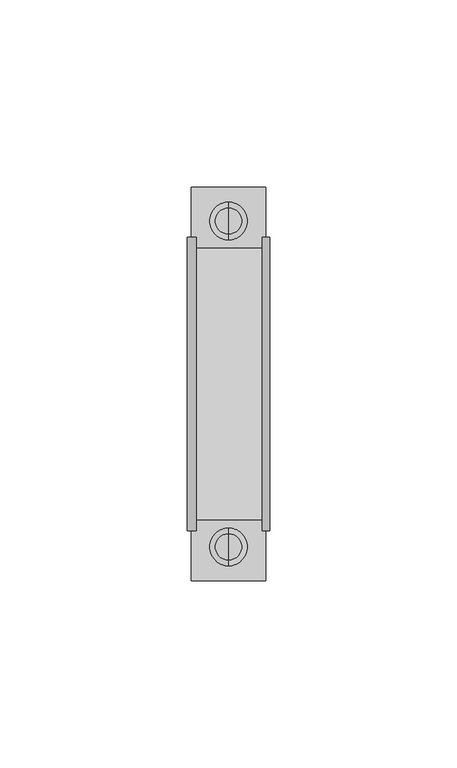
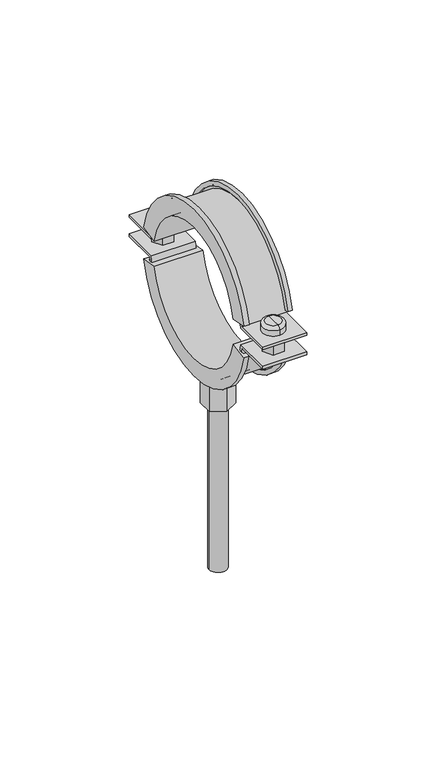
"""IFC4 building model written with IfcOpenShell, lengths in millimetres: pipe fitting geometry, NIRON abrazadera isofonica lisa : Estándard."""

from ifc_helpers import new_model, si_unit, point, frame, origin, origin_2d, place, context, project, spatial, polyline, circle_curve, ellipse_curve, trimmed, segment, composite_curve, outline, extrude, source, transform, mapped, element, save
from ifc_brep_helpers import plane_surface, cylinder_surface, revolved_surface, advanced_brep


def pipe_fitting_b763c119(model_context):
    return source(origin(), model_context, "Body", "SolidModel", [
        advanced_brep(
        [(0.0, 39.5, -7.8), (0.0, 39.5, -4.8), (0.0, 47.5, -4.8), (0.0, 47.5, -7.8), (0.0, 43.5, -7.8), (0.0, 43.5, -4.8)],
        [
            (0, 1),
            (1, 2, circle_curve(frame((0.0, 43.5, -4.8), z_axis=(0.0, 0.0, -1.0), x_axis=(0.0, 1.0, 0.0)), 4.0)),
            (2, 3),
            (3, 0, circle_curve(frame((0.0, 43.5, -7.8), z_axis=(0.0, 0.0, 1.0), x_axis=(0.0, 1.0, 0.0)), 4.0)),
            (2, 1, circle_curve(frame((0.0, 43.5, -4.8), z_axis=(0.0, 0.0, -1.0), x_axis=(0.0, 1.0, 0.0)), 4.0)),
            (0, 3, circle_curve(frame((0.0, 43.5, -7.8), z_axis=(0.0, 0.0, 1.0), x_axis=(0.0, 1.0, 0.0)), 4.0)),
            (4, 0),
            (3, 4),
            (1, 5),
            (5, 2),
        ],
        [
            cylinder_surface(frame((0.0, 43.5, -110.5332781), z_axis=(0.0, 0.0, -1.0), x_axis=(0.0, 1.0, 0.0)), 4.0),
            plane_surface(frame((0.0, 43.5, -7.8), z_axis=(0.0, 0.0, -1.0), x_axis=(0.0, 1.0, 0.0))),
            plane_surface(frame((0.0, 43.5, -4.8), z_axis=(0.0, 0.0, 1.0), x_axis=(0.0, 1.0, 0.0))),
        ],
        [
            (0, [[1, 2, 3, 4]]),
            (0, [[-3, 5, -1, 6]]),
            (1, [[7, -4, 8]]),
            (1, [[-8, -6, -7]]),
            (2, [[9, 10, -2]]),
            (2, [[-10, -9, -5]]),
        ],
    ),
        advanced_brep(
        [(0.0, 43.5, 4.8), (0.0, 38.5, 4.8), (0.0, 48.5, 4.8), (0.0, 38.5, 7.3), (0.0, 48.5, 7.3), (0.0, 40.0, 8.8), (0.0, 43.5, 8.8), (0.0, 47.0, 8.8)],
        [
            (0, 1),
            (1, 2, circle_curve(frame((0.0, 43.5, 4.8), z_axis=(0.0, 0.0, -1.0), x_axis=(0.0, 1.0, 0.0)), 5.0)),
            (2, 0),
            (2, 1, circle_curve(frame((0.0, 43.5, 4.8), z_axis=(0.0, 0.0, -1.0), x_axis=(0.0, 1.0, 0.0)), 5.0)),
            (1, 3),
            (3, 4, circle_curve(frame((0.0, 43.5, 7.3), z_axis=(0.0, 0.0, -1.0), x_axis=(0.0, 1.0, 0.0)), 5.0)),
            (4, 2),
            (4, 3, circle_curve(frame((0.0, 43.5, 7.3), z_axis=(0.0, 0.0, -1.0), x_axis=(0.0, 1.0, 0.0)), 5.0)),
            (5, 6),
            (6, 7),
            (7, 5, circle_curve(frame((0.0, 43.5, 8.8), z_axis=(0.0, 0.0, 1.0), x_axis=(0.0, 1.0, 0.0)), 3.5)),
            (5, 7, circle_curve(frame((0.0, 43.5, 8.8), z_axis=(0.0, 0.0, 1.0), x_axis=(0.0, 1.0, 0.0)), 3.5)),
            (3, 5, circle_curve(frame((0.0, 40.0, 7.3), z_axis=(-1.0, 0.0, 0.0), x_axis=(0.0, 1.0, 0.0)), 1.5)),
            (7, 4, circle_curve(frame((0.0, 47.0, 7.3), z_axis=(-1.0, 0.0, 0.0), x_axis=(0.0, -1.0, 0.0)), 1.5)),
        ],
        [
            plane_surface(frame((0.0, 43.5, 4.8), z_axis=(0.0, 0.0, -1.0), x_axis=(0.0, 1.0, 0.0))),
            cylinder_surface(frame((0.0, 43.5, 9.8), z_axis=(0.0, 0.0, -1.0), x_axis=(0.0, 1.0, 0.0)), 5.0),
            plane_surface(frame((0.0, 43.5, 8.8), z_axis=(0.0, 0.0, 1.0), x_axis=(0.0, 1.0, 0.0))),
            revolved_surface(trimmed(ellipse_curve(frame((0.0, 47.0, 7.3), z_axis=(-1.0, 0.0, 0.0), x_axis=(0.0, -1.0, 0.0)), 1.5, 1.5), [point((0.0, 47.0, 8.8))], [point((0.0, 48.5, 7.3))], True, "CARTESIAN"), (0.0, 43.5, 9.8), (0.0, 0.0, -1.0)),
        ],
        [
            (0, [[1, 2, 3]]),
            (0, [[-3, 4, -1]]),
            (1, [[5, 6, 7, -2]]),
            (1, [[-7, 8, -5, -4]]),
            (2, [[9, 10, 11]]),
            (2, [[-10, -9, 12]]),
            (3, [[13, -11, 14, -6]]),
            (3, [[-14, -12, -13, -8]]),
        ],
    ),
        advanced_brep(
        [(0.0, -39.5, -7.4875), (0.0, -47.5, -7.4875), (0.0, -47.5, -4.4875), (0.0, -39.5, -4.4875), (0.0, -43.5, -7.4875), (0.0, -43.5, -4.4875)],
        [
            (0, 1, circle_curve(frame((0.0, -43.5, -7.4875), z_axis=(0.0, 0.0, 1.0), x_axis=(0.0, -1.0, 0.0)), 4.0)),
            (1, 2),
            (2, 3, circle_curve(frame((0.0, -43.5, -4.4875), z_axis=(0.0, 0.0, -1.0), x_axis=(0.0, -1.0, 0.0)), 4.0)),
            (3, 0),
            (1, 0, circle_curve(frame((0.0, -43.5, -7.4875), z_axis=(0.0, 0.0, 1.0), x_axis=(0.0, -1.0, 0.0)), 4.0)),
            (3, 2, circle_curve(frame((0.0, -43.5, -4.4875), z_axis=(0.0, 0.0, -1.0), x_axis=(0.0, -1.0, 0.0)), 4.0)),
            (4, 1),
            (0, 4),
            (2, 5),
            (5, 3),
        ],
        [
            cylinder_surface(frame((0.0, -43.5, -110.2207781), z_axis=(0.0, 0.0, -1.0), x_axis=(0.0, -1.0, 0.0)), 4.0),
            plane_surface(frame((0.0, -43.5, -7.4875), z_axis=(0.0, 0.0, -1.0), x_axis=(0.0, -1.0, 0.0))),
            plane_surface(frame((0.0, -43.5, -4.4875), z_axis=(0.0, 0.0, 1.0), x_axis=(0.0, -1.0, 0.0))),
        ],
        [
            (0, [[1, 2, 3, 4]]),
            (0, [[5, -4, 6, -2]]),
            (1, [[7, -1, 8]]),
            (1, [[-8, -5, -7]]),
            (2, [[-3, 9, 10]]),
            (2, [[-6, -10, -9]]),
        ],
    ),
        advanced_brep(
        [(0.0, -43.5, 5.1125), (0.0, -48.5, 5.1125), (0.0, -38.5, 5.1125), (0.0, -48.5, 7.6125), (0.0, -38.5, 7.6125), (0.0, -40.0, 9.1125), (0.0, -47.0, 9.1125), (0.0, -43.5, 9.1125)],
        [
            (0, 1),
            (1, 2, circle_curve(frame((0.0, -43.5, 5.1125), z_axis=(0.0, 0.0, -1.0), x_axis=(0.0, -1.0, 0.0)), 5.0)),
            (2, 0),
            (2, 1, circle_curve(frame((0.0, -43.5, 5.1125), z_axis=(0.0, 0.0, -1.0), x_axis=(0.0, -1.0, 0.0)), 5.0)),
            (1, 3),
            (3, 4, circle_curve(frame((0.0, -43.5, 7.6125), z_axis=(0.0, 0.0, -1.0), x_axis=(0.0, -1.0, 0.0)), 5.0)),
            (4, 2),
            (4, 3, circle_curve(frame((0.0, -43.5, 7.6125), z_axis=(0.0, 0.0, -1.0), x_axis=(0.0, -1.0, 0.0)), 5.0)),
            (5, 6, circle_curve(frame((0.0, -43.5, 9.1125), z_axis=(0.0, 0.0, 1.0), x_axis=(0.0, -1.0, 0.0)), 3.5)),
            (6, 7),
            (7, 5),
            (6, 5, circle_curve(frame((0.0, -43.5, 9.1125), z_axis=(0.0, 0.0, 1.0), x_axis=(0.0, -1.0, 0.0)), 3.5)),
            (3, 6, circle_curve(frame((0.0, -47.0, 7.6125), z_axis=(-1.0, 0.0, 0.0), x_axis=(0.0, 1.0, 0.0)), 1.5)),
            (5, 4, circle_curve(frame((0.0, -40.0, 7.6125), z_axis=(-1.0, 0.0, 0.0), x_axis=(0.0, -1.0, 0.0)), 1.5)),
        ],
        [
            plane_surface(frame((0.0, -43.5, 5.1125), z_axis=(0.0, 0.0, -1.0), x_axis=(0.0, -1.0, 0.0))),
            cylinder_surface(frame((0.0, -43.5, 10.1125), z_axis=(0.0, 0.0, -1.0), x_axis=(0.0, -1.0, 0.0)), 5.0),
            plane_surface(frame((0.0, -43.5, 9.1125), z_axis=(0.0, 0.0, 1.0), x_axis=(0.0, -1.0, 0.0))),
            revolved_surface(trimmed(ellipse_curve(frame((0.0, -47.0, 7.6125), z_axis=(1.0, 0.0, 0.0), x_axis=(0.0, 1.0, 0.0)), 1.5, 1.5), [point((0.0, -47.0, 9.1125))], [point((0.0, -48.5, 7.6125))], True, "CARTESIAN"), (0.0, -43.5, 10.1125), (0.0, 0.0, -1.0)),
        ],
        [
            (0, [[1, 2, 3]]),
            (0, [[-3, 4, -1]]),
            (1, [[-2, 5, 6, 7]]),
            (1, [[-4, -7, 8, -5]]),
            (2, [[9, 10, 11]]),
            (2, [[12, -11, -10]]),
            (3, [[-6, 13, -9, 14]]),
            (3, [[-8, -14, -12, -13]]),
        ],
    ),
        extrude(outline(polyline([(2.5, 39.169873), (-2.5, 39.169873), (-5.0, 43.5), (-2.5, 47.830127), (2.5, 47.830127), (5.0, 43.5), (2.5, 39.169873)])), frame((0.0, 0.0, -4.0), z_axis=(0.0, 0.0, 1.0), x_axis=(1.0, 0.0, 0.0)), (0.0, 0.0, 1.0), 8.0),
        extrude(outline(polyline([(2.5, -39.169873), (5.0, -43.5), (2.5, -47.830127), (-2.5, -47.830127), (-5.0, -43.5), (-2.5, -39.169873), (2.5, -39.169873)])), frame((0.0, 0.0, -4.0), z_axis=(0.0, 0.0, 1.0), x_axis=(1.0, 0.0, 0.0)), (0.0, 0.0, 1.0), 8.0),
        advanced_brep(
        [(11.0, -30.932368, 6.0), (11.0, -39.2300984, 7.596925), (9.0, -39.2300984, 7.596925), (9.0, -37.2661385, 7.2189546), (10.0, -37.2661385, 7.2189546), (10.0, -35.3021787, 6.8409841), (-10.0, -35.3021787, 6.8409841), (-10.0, -37.2661385, 7.2189546), (-8.5466338, -37.2661385, 7.2189546), (-8.5466338, -39.2300984, 7.596925), (-11.0, -39.2300984, 7.596925), (-11.0, -30.932368, 6.0), (11.0, 30.932368, 6.0), (-11.0, 30.932368, 6.0), (-11.0, 39.2300984, 7.596925), (-8.5466338, 39.2300984, 7.596925), (-8.5466338, 37.2661385, 7.2189546), (-10.0, 37.2661385, 7.2189546), (-10.0, 35.3021787, 6.8409841), (10.0, 35.3021787, 6.8409841), (10.0, 37.2661385, 7.2189546), (9.0, 37.2661385, 7.2189546), (9.0, 39.2300984, 7.596925), (11.0, 39.2300984, 7.596925)],
        [
            (0, 1),
            (1, 2),
            (2, 3),
            (3, 4),
            (4, 5),
            (5, 6),
            (6, 7),
            (7, 8),
            (8, 9),
            (9, 10),
            (10, 11),
            (11, 0),
            (12, 13),
            (13, 14),
            (14, 15),
            (15, 16),
            (16, 17),
            (17, 18),
            (18, 19),
            (19, 20),
            (20, 21),
            (21, 22),
            (22, 23),
            (23, 12),
            (12, 0, circle_curve(frame((11.0, 0.0, 0.0469661), z_axis=(1.0, 0.0, 0.0), x_axis=(0.0, -0.9819799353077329, 0.188985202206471)), 31.5)),
            (11, 13, circle_curve(frame((-11.0, 0.0, 0.0469661), z_axis=(-1.0, 0.0, 0.0), x_axis=(0.0, -0.9819799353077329, 0.188985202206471)), 31.5)),
            (10, 14, circle_curve(frame((-11.0, 0.0, 0.0469661), z_axis=(-1.0, 0.0, 0.0), x_axis=(0.0, -0.9819799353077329, 0.188985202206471)), 39.95)),
            (9, 15, circle_curve(frame((-8.5466338, 0.0, 0.0469661), z_axis=(-1.0, 0.0, 0.0), x_axis=(0.0, -0.9819799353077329, 0.188985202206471)), 39.95)),
            (8, 16, circle_curve(frame((-8.5466338, 0.0, 0.0469661), z_axis=(-1.0, 0.0, 0.0), x_axis=(0.0, -0.9819799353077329, 0.188985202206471)), 37.95)),
            (7, 17, circle_curve(frame((-10.0, 0.0, 0.0469661), z_axis=(-1.0, 0.0, 0.0), x_axis=(0.0, -0.9819799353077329, 0.188985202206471)), 37.95)),
            (6, 18, circle_curve(frame((-10.0, 0.0, 0.0469661), z_axis=(-1.0, 0.0, 0.0), x_axis=(0.0, -0.9819799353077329, 0.188985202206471)), 35.95)),
            (5, 19, circle_curve(frame((10.0, 0.0, 0.0469661), z_axis=(-1.0, 0.0, 0.0), x_axis=(0.0, -0.9819799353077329, 0.188985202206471)), 35.95)),
            (4, 20, circle_curve(frame((10.0, 0.0, 0.0469661), z_axis=(-1.0, 0.0, 0.0), x_axis=(0.0, -0.9819799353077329, 0.188985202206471)), 37.95)),
            (3, 21, circle_curve(frame((9.0, 0.0, 0.0469661), z_axis=(-1.0, 0.0, 0.0), x_axis=(0.0, -0.9819799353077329, 0.188985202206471)), 37.95)),
            (2, 22, circle_curve(frame((9.0, 0.0, 0.0469661), z_axis=(-1.0, 0.0, 0.0), x_axis=(0.0, -0.9819799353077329, 0.188985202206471)), 39.95)),
            (1, 23, circle_curve(frame((11.0, 0.0, 0.0469661), z_axis=(-1.0, 0.0, 0.0), x_axis=(0.0, -0.9819799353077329, 0.188985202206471)), 39.95)),
        ],
        [
            plane_surface(frame((0.0, -30.932368, 6.0), z_axis=(0.0, -0.188985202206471, -0.9819799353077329), x_axis=(1.0, 0.0, 0.0))),
            plane_surface(frame((0.0, 30.932368, 6.0), z_axis=(0.0, 0.18898520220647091, -0.981979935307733), x_axis=(1.0, 0.0, 0.0))),
            revolved_surface(polyline([(-11.0, -30.932367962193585, 5.999999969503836), (11.0, -30.932367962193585, 5.999999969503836)]), (0.0, 0.0, 0.0469661), (-1.0, 0.0, 0.0)),
            plane_surface(frame((-11.0, 0.0, 0.0469661), z_axis=(-1.0, 0.0, 0.0), x_axis=(0.0, -0.9819799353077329, 0.188985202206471))),
            cylinder_surface(frame((0.0, 0.0, 0.0469661), z_axis=(-1.0, 0.0, 0.0), x_axis=(0.0, -0.9819799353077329, 0.188985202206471)), 39.95),
            plane_surface(frame((-8.5466338, 0.0, 0.0469661), z_axis=(1.0, 0.0, 0.0), x_axis=(0.0, -0.9819799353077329, 0.188985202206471))),
            revolved_surface(polyline([(-10.0, -37.26613854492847, 7.218954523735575), (-8.5466338, -37.26613854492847, 7.218954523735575)]), (0.0, 0.0, 0.0469661), (-1.0, 0.0, 0.0)),
            plane_surface(frame((-10.0, 0.0, 0.0469661), z_axis=(1.0, 0.0, 0.0), x_axis=(0.0, -0.9819799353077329, 0.188985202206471))),
            cylinder_surface(frame((0.0, 0.0, 0.0469661), z_axis=(-1.0, 0.0, 0.0), x_axis=(0.0, -0.9819799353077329, 0.188985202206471)), 35.95),
            plane_surface(frame((10.0, 0.0, 0.0469661), z_axis=(-1.0, 0.0, 0.0), x_axis=(0.0, -0.9819799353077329, 0.188985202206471))),
            revolved_surface(polyline([(9.0, -37.26613854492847, 7.218954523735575), (10.0, -37.26613854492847, 7.218954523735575)]), (0.0, 0.0, 0.0469661), (-1.0, 0.0, 0.0)),
            plane_surface(frame((9.0, 0.0, 0.0469661), z_axis=(-1.0, 0.0, 0.0), x_axis=(0.0, -0.9819799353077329, 0.188985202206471))),
            plane_surface(frame((11.0, 0.0, 0.0469661), z_axis=(1.0, 0.0, 0.0), x_axis=(0.0, -0.9819799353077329, 0.188985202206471))),
        ],
        [
            (0, [[1, 2, 3, 4, 5, 6, 7, 8, 9, 10, 11, 12]]),
            (1, [[13, 14, 15, 16, 17, 18, 19, 20, 21, 22, 23, 24]]),
            (2, [[25, -12, 26, -13]]),
            (3, [[-26, -11, 27, -14]]),
            (4, [[-27, -10, 28, -15]]),
            (5, [[-28, -9, 29, -16]]),
            (6, [[-29, -8, 30, -17]]),
            (7, [[-30, -7, 31, -18]]),
            (8, [[-31, -6, 32, -19]]),
            (9, [[-32, -5, 33, -20]]),
            (10, [[-33, -4, 34, -21]]),
            (11, [[-34, -3, 35, -22]]),
            (4, [[-35, -2, 36, -23]]),
            (12, [[-36, -1, -25, -24]]),
        ],
    ),
        extrude(outline(composite_curve([segment(trimmed(circle_curve(origin_2d(), 35.5), [point((-35.273928, -4.0))], [point((35.273928, -4.0))], True, "CARTESIAN"), True, "CONTINUOUS"), segment(polyline([(35.273928, -4.0), (52.5, -4.0), (52.5, -5.25), (36.373067, -5.25)]), True, "CONTINUOUS"), segment(trimmed(circle_curve(origin_2d(), 36.75), [point((36.373067, -5.25))], [point((-36.373067, -5.25))], False, "CARTESIAN"), True, "CONTINUOUS"), segment(polyline([(-36.373067, -5.25), (-52.5, -5.25), (-52.5, -4.0), (-35.273928, -4.0)]), True, "CONTINUOUS")], self_intersect=False)), frame((-10.0, 0.0, 0.0), z_axis=(1.0, 0.0, 0.0), x_axis=(0.0, 1.0, 0.0)), (0.0, 0.0, 1.0), 20.0),
        advanced_brep(
        [(11.0, -30.9232922, -6.0), (-11.0, -30.9232922, -6.0), (-11.0, -39.218588, -7.6095238), (-8.5466338, -39.218588, -7.6095238), (-8.5466338, -37.2552044, -7.2285714), (-10.0, -37.2552044, -7.2285714), (-10.0, -35.2918208, -6.847619), (10.0, -35.2918208, -6.847619), (10.0, -37.2552044, -7.2285714), (9.0, -37.2552044, -7.2285714), (9.0, -39.218588, -7.6095238), (11.0, -39.218588, -7.6095238), (11.0, 30.9232922, -6.0), (11.0, 39.218588, -7.6095238), (9.0, 39.218588, -7.6095238), (9.0, 37.2552044, -7.2285714), (10.0, 37.2552044, -7.2285714), (10.0, 35.2918208, -6.847619), (-10.0, 35.2918208, -6.847619), (-10.0, 37.2552044, -7.2285714), (-8.5466338, 37.2552044, -7.2285714), (-8.5466338, 39.218588, -7.6095238), (-11.0, 39.218588, -7.6095238), (-11.0, 30.9232922, -6.0)],
        [
            (0, 1),
            (1, 2),
            (2, 3),
            (3, 4),
            (4, 5),
            (5, 6),
            (6, 7),
            (7, 8),
            (8, 9),
            (9, 10),
            (10, 11),
            (11, 0),
            (12, 13),
            (13, 14),
            (14, 15),
            (15, 16),
            (16, 17),
            (17, 18),
            (18, 19),
            (19, 20),
            (20, 21),
            (21, 22),
            (22, 23),
            (23, 12),
            (23, 1, circle_curve(frame((-11.0, 0.0, 0.0), z_axis=(-1.0, 0.0, 0.0), x_axis=(0.0, -0.9816918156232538, -0.190476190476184)), 31.5)),
            (0, 12, circle_curve(frame((11.0, 0.0, 0.0), z_axis=(1.0, 0.0, 0.0), x_axis=(0.0, -0.9816918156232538, -0.190476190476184)), 31.5)),
            (22, 2, circle_curve(frame((-11.0, 0.0, 0.0), z_axis=(-1.0, 0.0, 0.0), x_axis=(0.0, -0.9816918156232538, -0.190476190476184)), 39.95)),
            (21, 3, circle_curve(frame((-8.5466338, 0.0, 0.0), z_axis=(-1.0, 0.0, 0.0), x_axis=(0.0, -0.9816918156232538, -0.190476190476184)), 39.95)),
            (20, 4, circle_curve(frame((-8.5466338, 0.0, 0.0), z_axis=(-1.0, 0.0, 0.0), x_axis=(0.0, -0.9816918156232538, -0.190476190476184)), 37.95)),
            (19, 5, circle_curve(frame((-10.0, 0.0, 0.0), z_axis=(-1.0, 0.0, 0.0), x_axis=(0.0, -0.9816918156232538, -0.190476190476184)), 37.95)),
            (18, 6, circle_curve(frame((-10.0, 0.0, 0.0), z_axis=(-1.0, 0.0, 0.0), x_axis=(0.0, -0.9816918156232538, -0.190476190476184)), 35.95)),
            (17, 7, circle_curve(frame((10.0, 0.0, 0.0), z_axis=(-1.0, 0.0, 0.0), x_axis=(0.0, -0.9816918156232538, -0.190476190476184)), 35.95)),
            (16, 8, circle_curve(frame((10.0, 0.0, 0.0), z_axis=(-1.0, 0.0, 0.0), x_axis=(0.0, -0.9816918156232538, -0.190476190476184)), 37.95)),
            (15, 9, circle_curve(frame((9.0, 0.0, 0.0), z_axis=(-1.0, 0.0, 0.0), x_axis=(0.0, -0.9816918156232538, -0.190476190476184)), 37.95)),
            (14, 10, circle_curve(frame((9.0, 0.0, 0.0), z_axis=(-1.0, 0.0, 0.0), x_axis=(0.0, -0.9816918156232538, -0.190476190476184)), 39.95)),
            (13, 11, circle_curve(frame((11.0, 0.0, 0.0), z_axis=(-1.0, 0.0, 0.0), x_axis=(0.0, -0.9816918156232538, -0.190476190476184)), 39.95)),
        ],
        [
            plane_surface(frame((0.0, -30.9232922, -6.0), z_axis=(0.0, -0.190476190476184, 0.9816918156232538), x_axis=(1.0, 0.0, 0.0))),
            plane_surface(frame((0.0, 30.9232922, -6.0), z_axis=(0.0, 0.19047619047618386, 0.9816918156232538), x_axis=(1.0, 0.0, 0.0))),
            revolved_surface(polyline([(11.0, -30.923292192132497, -5.999999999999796), (-11.0, -30.923292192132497, -5.999999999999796)]), (0.0, 0.0, 0.0), (1.0, 0.0, 0.0)),
            plane_surface(frame((-11.0, 0.0, 0.0), z_axis=(-1.0000000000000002, 0.0, 0.0), x_axis=(0.0, -0.9816918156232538, -0.190476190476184))),
            cylinder_surface(frame((0.0, 0.0, 0.0), z_axis=(1.0, 0.0, 0.0), x_axis=(0.0, -0.9816918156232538, -0.190476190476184)), 39.95),
            plane_surface(frame((-8.5466338, 0.0, 0.0), z_axis=(1.0000000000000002, 0.0, 0.0), x_axis=(0.0, -0.9816918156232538, -0.190476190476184))),
            revolved_surface(polyline([(-8.5466338, -37.255204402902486, -7.2285714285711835), (-10.0, -37.255204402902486, -7.2285714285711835)]), (0.0, 0.0, 0.0), (1.0, 0.0, 0.0)),
            plane_surface(frame((-10.0, 0.0, 0.0), z_axis=(1.0000000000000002, 0.0, 0.0), x_axis=(0.0, -0.9816918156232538, -0.190476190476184))),
            cylinder_surface(frame((0.0, 0.0, 0.0), z_axis=(1.0, 0.0, 0.0), x_axis=(0.0, -0.9816918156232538, -0.190476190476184)), 35.95),
            plane_surface(frame((10.0, 0.0, 0.0), z_axis=(-1.0000000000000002, 0.0, 0.0), x_axis=(0.0, -0.9816918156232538, -0.190476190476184))),
            revolved_surface(polyline([(10.0, -37.255204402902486, -7.2285714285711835), (9.0, -37.255204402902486, -7.2285714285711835)]), (0.0, 0.0, 0.0), (1.0, 0.0, 0.0)),
            plane_surface(frame((9.0, 0.0, 0.0), z_axis=(-1.0000000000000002, 0.0, 0.0), x_axis=(0.0, -0.9816918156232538, -0.190476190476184))),
            plane_surface(frame((11.0, 0.0, 0.0), z_axis=(1.0000000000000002, 0.0, 0.0), x_axis=(0.0, -0.9816918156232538, -0.190476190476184))),
        ],
        [
            (0, [[1, 2, 3, 4, 5, 6, 7, 8, 9, 10, 11, 12]]),
            (1, [[13, 14, 15, 16, 17, 18, 19, 20, 21, 22, 23, 24]]),
            (2, [[25, -1, 26, -24]]),
            (3, [[27, -2, -25, -23]]),
            (4, [[28, -3, -27, -22]]),
            (5, [[29, -4, -28, -21]]),
            (6, [[30, -5, -29, -20]]),
            (7, [[31, -6, -30, -19]]),
            (8, [[32, -7, -31, -18]]),
            (9, [[33, -8, -32, -17]]),
            (10, [[34, -9, -33, -16]]),
            (11, [[35, -10, -34, -15]]),
            (4, [[36, -11, -35, -14]]),
            (12, [[-26, -12, -36, -13]]),
        ],
    ),
        extrude(outline(composite_curve([segment(trimmed(circle_curve(origin_2d(), 36.75), [point((-36.373067, 5.25))], [point((36.373067, 5.25))], False, "CARTESIAN"), True, "CONTINUOUS"), segment(polyline([(36.373067, 5.25), (52.5, 5.25), (52.5, 4.0), (35.273928, 4.0)]), True, "CONTINUOUS"), segment(trimmed(circle_curve(origin_2d(), 35.5), [point((35.273928, 4.0))], [point((-35.273928, 4.0))], True, "CARTESIAN"), True, "CONTINUOUS"), segment(polyline([(-35.273928, 4.0), (-52.5, 4.0), (-52.5, 5.25), (-36.373067, 5.25)]), True, "CONTINUOUS")], self_intersect=False)), frame((-10.0, 0.0, 0.0), z_axis=(1.0, 0.0, 0.0), x_axis=(0.0, 1.0, 0.0)), (0.0, 0.0, 1.0), 20.0),
        extrude(outline(composite_curve([segment(trimmed(circle_curve(origin_2d(), 4.0), [point((-4.0, 0.0))], [point((4.0, 0.0))], False, "CARTESIAN"), True, "CONTINUOUS"), segment(trimmed(circle_curve(origin_2d(), 4.0), [point((4.0, 0.0))], [point((-4.0, 0.0))], False, "CARTESIAN"), True, "CONTINUOUS")], self_intersect=False)), frame((0.0, 0.0, -135.5), z_axis=(0.0, 0.0, 1.0), x_axis=(1.0, 0.0, 0.0)), (0.0, 0.0, 1.0), 100.0),
        extrude(outline(polyline([(-6.0621778, 3.5), (0.0, 7.0), (6.0621778, 3.5), (6.0621778, -3.5), (0.0, -7.0), (-6.0621778, -3.5), (-6.0621778, 3.5)])), frame((0.0, 0.0, -56.7), z_axis=(0.0, 0.0, 1.0), x_axis=(1.0, 0.0, 0.0)), (0.0, 0.0, 1.0), 21.2),
    ])


if __name__ == "__main__":
    model = new_model("IFC4")
    model_context = context("Model", 3, world=origin())
    ifc_project = project(units=[si_unit("LENGTHUNIT", "METRE", prefix="MILLI")], contexts=[model_context])
    site = spatial("IfcSite", under=ifc_project)
    building = spatial("IfcBuilding", under=site)
    placement = place(None, origin())
    pipe_fitting_shape = pipe_fitting_b763c119(model_context)
    element("IfcPipeFitting", 1, ObjectType="NIRON abrazadera isofonica lisa : Estándard", at=placement, inside=building, context=model_context, shape_type="MappedRepresentation", body=[
        mapped(pipe_fitting_shape, transform((0.0, 0.0, 0.0), x_axis=(1.0, 0.0, 0.0), y_axis=(0.0, 1.0, 0.0), z_axis=(0.0, 0.0, 1.0))),
    ])
    save(model, "model.ifc")
